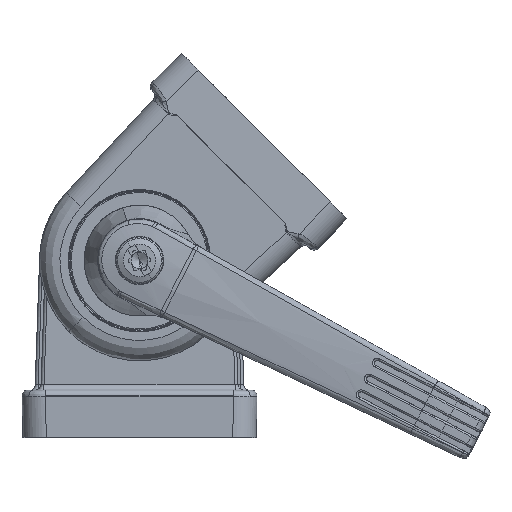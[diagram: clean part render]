
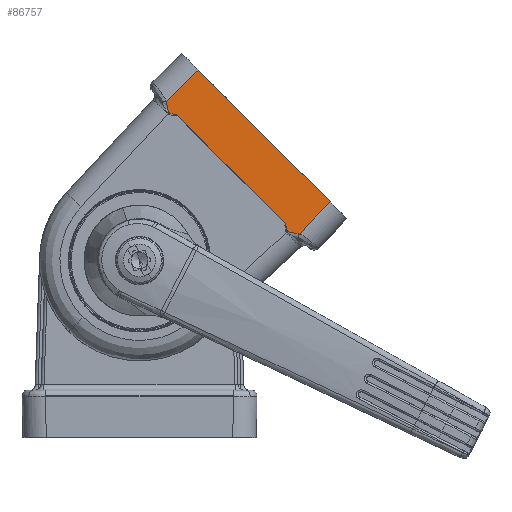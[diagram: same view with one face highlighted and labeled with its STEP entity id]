
A CAD part, top view. The second image highlights one B-rep face of the part: STEP entity #86757.
In plain terms, the highlighted planar face has unit normal (0.012, 0.012, 1) as drawn and (-0.012, 0.012, -1) by its records, which use the part's own axes.
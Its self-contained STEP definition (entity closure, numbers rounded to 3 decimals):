
#336 = CARTESIAN_POINT ( 'NONE',  ( -5.345, 47.004, -20.009 ) ) ;
#395 = DIRECTION ( 'NONE',  ( -0.719, 0.695, 0.017 ) ) ;
#654 = CARTESIAN_POINT ( 'NONE',  ( -4.533, 49.152, -19.993 ) ) ;
#1970 = CARTESIAN_POINT ( 'NONE',  ( -25.334, 26.914, -20.011 ) ) ;
#4142 = FACE_OUTER_BOUND ( 'NONE', #75223, .T. ) ;
#5058 = ORIENTED_EDGE ( 'NONE', *, *, #42015, .T. ) ;
#7316 = CARTESIAN_POINT ( 'NONE',  ( -5.145, 47.081, -20.011 ) ) ;
#7895 = VERTEX_POINT ( 'NONE', #85468 ) ;
#8960 = CARTESIAN_POINT ( 'NONE',  ( -25.157, 27.037, -20.011 ) ) ;
#11074 = ORIENTED_EDGE ( 'NONE', *, *, #56633, .F. ) ;
#13964 = CARTESIAN_POINT ( 'NONE',  ( -6.311, 46.826, -20. ) ) ;
#14261 = CARTESIAN_POINT ( 'NONE',  ( -4.981, 47.22, -20.011 ) ) ;
#14352 = EDGE_CURVE ( 'NONE', #43897, #62560, #23442, .T. ) ;
#15575 = CARTESIAN_POINT ( 'NONE',  ( -26.874, 26.606, -19.995 ) ) ;
#15876 = CARTESIAN_POINT ( 'NONE',  ( -25.047, 27.22, -20.01 ) ) ;
#15976 = VECTOR ( 'NONE', #23140, 1000. ) ;
#16030 = CARTESIAN_POINT ( 'NONE',  ( -38.891, 25.536, -19.86 ) ) ;
#21174 = CARTESIAN_POINT ( 'NONE',  ( -4.885, 47.411, -20.01 ) ) ;
#21870 = ORIENTED_EDGE ( 'NONE', *, *, #14352, .F. ) ;
#22215 = CARTESIAN_POINT ( 'NONE',  ( -27.152, 26.533, -19.993 ) ) ;
#22229 = DIRECTION ( 'NONE',  ( 0.012, -0.012, 1. ) ) ;
#22810 = CARTESIAN_POINT ( 'NONE',  ( -24.984, 27.422, -20.009 ) ) ;
#23140 = DIRECTION ( 'NONE',  ( 0.707, 0.707, 0. ) ) ;
#23442 = LINE ( 'NONE', #41831, #60238 ) ;
#25695 = DIRECTION ( 'NONE',  ( 0.695, -0.719, -0.017 ) ) ;
#27413 = EDGE_CURVE ( 'NONE', #37675, #7895, #89598, .T. ) ;
#27815 = CARTESIAN_POINT ( 'NONE',  ( -6.177, 46.85, -20.001 ) ) ;
#28104 = CARTESIAN_POINT ( 'NONE',  ( -4.799, 47.756, -20.007 ) ) ;
#28161 = VECTOR ( 'NONE', #71033, 1000. ) ;
#29472 = CARTESIAN_POINT ( 'NONE',  ( -26.17, 26.73, -20.003 ) ) ;
#29629 = ORIENTED_EDGE ( 'NONE', *, *, #27413, .F. ) ;
#29779 = CARTESIAN_POINT ( 'NONE',  ( -24.916, 27.77, -20.005 ) ) ;
#31444 = AXIS2_PLACEMENT_3D ( 'NONE', #63687, #22229, #70611 ) ;
#34705 = CARTESIAN_POINT ( 'NONE',  ( -27.152, 26.533, -19.993 ) ) ;
#34788 = CARTESIAN_POINT ( 'NONE',  ( -5.766, 46.916, -20.005 ) ) ;
#35077 = CARTESIAN_POINT ( 'NONE',  ( -4.729, 48.177, -20.003 ) ) ;
#35847 = PLANE ( 'NONE',  #31444 ) ;
#36439 = CARTESIAN_POINT ( 'NONE',  ( -25.747, 26.8, -20.007 ) ) ;
#36720 = CARTESIAN_POINT ( 'NONE',  ( -24.849, 28.178, -20.001 ) ) ;
#37675 = VERTEX_POINT ( 'NONE', #86093 ) ;
#40582 = ORIENTED_EDGE ( 'NONE', *, *, #80373, .F. ) ;
#41769 = CARTESIAN_POINT ( 'NONE',  ( -5.415, 46.986, -20.009 ) ) ;
#41831 = CARTESIAN_POINT ( 'NONE',  ( -4.694, 49.307, -19.989 ) ) ;
#42015 = EDGE_CURVE ( 'NONE', #75692, #62560, #81212, .T. ) ;
#42078 = CARTESIAN_POINT ( 'NONE',  ( -4.605, 48.876, -19.995 ) ) ;
#43418 = CARTESIAN_POINT ( 'NONE',  ( -25.401, 26.888, -20.01 ) ) ;
#43897 = VERTEX_POINT ( 'NONE', #72773 ) ;
#48731 = CARTESIAN_POINT ( 'NONE',  ( -5.211, 47.051, -20.011 ) ) ;
#48773 = LINE ( 'NONE', #74051, #64942 ) ;
#50167 = CARTESIAN_POINT ( 'NONE',  ( -32.429, 31.998, -19.86 ) ) ;
#50393 = CARTESIAN_POINT ( 'NONE',  ( -25.212, 26.987, -20.011 ) ) ;
#54875 = B_SPLINE_CURVE_WITH_KNOTS ( 'NONE', 3,
 ( #13964, #27815, #76195, #34788, #83178, #41769, #336, #48731, #7316, #55731, #14261, #62612, #21174, #69551, #28104, #76494, #35077, #83479, #42078, #654 ),
 .UNSPECIFIED., .F., .F.,
 ( 4, 2, 2, 2, 2, 2, 2, 2, 2, 4 ),
 ( 0., 0.12, 0.245, 0.308, 0.371, 0.434, 0.497, 0.623, 0.748, 1. ),
 .UNSPECIFIED. ) ;
#55731 = CARTESIAN_POINT ( 'NONE',  ( -5.029, 47.165, -20.011 ) ) ;
#56633 = EDGE_CURVE ( 'NONE', #75692, #77824, #48773, .T. ) ;
#57354 = CARTESIAN_POINT ( 'NONE',  ( -25.076, 27.153, -20.011 ) ) ;
#60238 = VECTOR ( 'NONE', #395, 1000. ) ;
#62560 = VERTEX_POINT ( 'NONE', #69398 ) ;
#62612 = CARTESIAN_POINT ( 'NONE',  ( -4.91, 47.343, -20.011 ) ) ;
#63687 = CARTESIAN_POINT ( 'NONE',  ( -29.698, 23.414, -20. ) ) ;
#63989 = EDGE_CURVE ( 'NONE', #77824, #37675, #65087, .T. ) ;
#64270 = CARTESIAN_POINT ( 'NONE',  ( -25.001, 27.354, -20.009 ) ) ;
#64886 = CARTESIAN_POINT ( 'NONE',  ( -29.711, 23.427, -20. ) ) ;
#64942 = VECTOR ( 'NONE', #25695, 1000. ) ;
#65087 = B_SPLINE_CURVE_WITH_KNOTS ( 'NONE', 3,
 ( #22215, #15575, #70893, #29472, #77836, #36439, #84828, #43418, #1970, #50393, #8960, #57354, #15876, #64270, #22810, #71179, #29779, #78142, #36720, #85115 ),
 .UNSPECIFIED., .F., .F.,
 ( 4, 2, 2, 2, 2, 2, 2, 2, 2, 4 ),
 ( 0., 0.252, 0.377, 0.503, 0.566, 0.629, 0.692, 0.755, 0.88, 1. ),
 .UNSPECIFIED. ) ;
#69398 = CARTESIAN_POINT ( 'NONE',  ( -9.998, 54.429, -19.86 ) ) ;
#69551 = CARTESIAN_POINT ( 'NONE',  ( -4.823, 47.616, -20.008 ) ) ;
#70611 = DIRECTION ( 'NONE',  ( 0., -1., -0.012 ) ) ;
#70893 = CARTESIAN_POINT ( 'NONE',  ( -26.594, 26.659, -19.998 ) ) ;
#71033 = DIRECTION ( 'NONE',  ( 0.707, 0.707, 0. ) ) ;
#71179 = CARTESIAN_POINT ( 'NONE',  ( -24.938, 27.63, -20.007 ) ) ;
#72773 = CARTESIAN_POINT ( 'NONE',  ( -4.533, 49.152, -19.993 ) ) ;
#74051 = CARTESIAN_POINT ( 'NONE',  ( -32.429, 31.998, -19.86 ) ) ;
#75223 = EDGE_LOOP ( 'NONE', ( #40582, #29629, #80555, #11074, #5058, #21870 ) ) ;
#75692 = VERTEX_POINT ( 'NONE', #50167 ) ;
#76195 = CARTESIAN_POINT ( 'NONE',  ( -6.042, 46.871, -20.002 ) ) ;
#76494 = CARTESIAN_POINT ( 'NONE',  ( -4.751, 48.036, -20.004 ) ) ;
#77824 = VERTEX_POINT ( 'NONE', #34705 ) ;
#77836 = CARTESIAN_POINT ( 'NONE',  ( -26.029, 26.752, -20.004 ) ) ;
#78142 = CARTESIAN_POINT ( 'NONE',  ( -24.871, 28.044, -20.002 ) ) ;
#80373 = EDGE_CURVE ( 'NONE', #7895, #43897, #54875, .T. ) ;
#80555 = ORIENTED_EDGE ( 'NONE', *, *, #63989, .F. ) ;
#81212 = LINE ( 'NONE', #16030, #28161 ) ;
#83178 = CARTESIAN_POINT ( 'NONE',  ( -5.625, 46.939, -20.007 ) ) ;
#83479 = CARTESIAN_POINT ( 'NONE',  ( -4.659, 48.597, -19.998 ) ) ;
#84828 = CARTESIAN_POINT ( 'NONE',  ( -25.606, 26.825, -20.008 ) ) ;
#85115 = CARTESIAN_POINT ( 'NONE',  ( -24.826, 28.311, -20. ) ) ;
#85468 = CARTESIAN_POINT ( 'NONE',  ( -6.311, 46.826, -20. ) ) ;
#86093 = CARTESIAN_POINT ( 'NONE',  ( -24.826, 28.311, -20. ) ) ;
#86757 = ADVANCED_FACE ( 'NONE', ( #4142 ), #35847, .F. ) ;
#89598 = LINE ( 'NONE', #64886, #15976 ) ;
